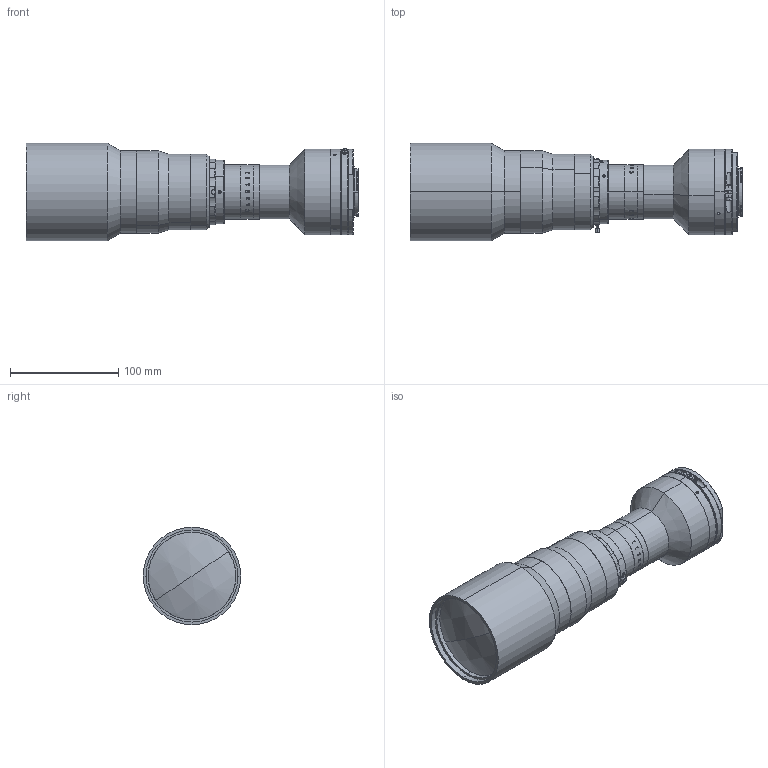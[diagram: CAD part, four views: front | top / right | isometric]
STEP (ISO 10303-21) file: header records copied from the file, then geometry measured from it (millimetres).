
FILE_DESCRIPTION (( 'STEP AP203' ), '1' );
FILE_NAME ('XF-PTL06532-F-VI.STEP', '2019-07-22T03:20:53', ( 'lawlynn' ), ( '' ), 'SwSTEP 2.0', 'SolidWorks 2014', '' );
FILE_SCHEMA (( 'CONFIG_CONTROL_DESIGN' ));
Length unit declared in the file: millimetre
Products named in the file (1): XF-PTL06532-F-VI
Bounding box: 306.56 x 90 x 90 mm (x, y, z)
Surface area: 109526.2 mm2 (no closed solid volume)
Topology: 0 solids, 47 shells, 261 faces, 1345 edges, 1124 vertices
Faces by surface type: cylinder 128, plane 82, cone 34, torus 8, bspline 5, sphere 4
Entity records: 21379 total; most frequent: CARTESIAN_POINT 11389, DIRECTION 1920, ORIENTED_EDGE 1787, EDGE_CURVE 1343, VERTEX_POINT 1124, AXIS2_PLACEMENT_3D 741, CIRCLE 484, LINE 438
